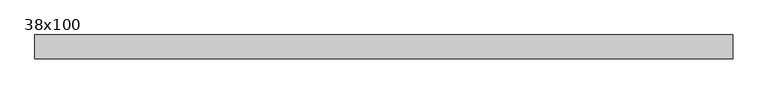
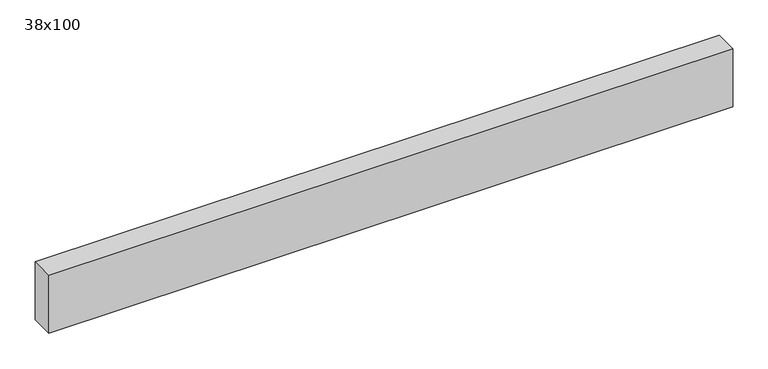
"""IFC4 building model written with IfcOpenShell, lengths in millimetres: beam geometry, Poutre - Bois de construction de dimensions courantes : 38x100."""

import ifcopenshell
import ifcopenshell.guid

model = None  # the IFC model being written
_history = None  # IfcOwnerHistory: only IFC2X3 demands one
_inside = {}  # id of a spatial element -> (the spatial element, [elements in it])
_under = {}  # id of a project, library or spatial element -> (it, [spatial elements below it])
_declared = {}  # id of a project -> (the project, [libraries it declares])
_typed = {}  # id of a type object -> (the type object, [elements of that type])
_made_of = {}  # id of a material, layer set ... -> (it, [elements and type objects made of it])


def new_model(schema):
    """Start an empty IFC model of exactly this schema.

    Asked for "IFC4X3", IfcOpenShell would pick the latest addendum, in which some entities
    have other attributes; the version numbers below select the first issue.
    IFC2X3 requires an IfcOwnerHistory on every rooted entity: one is made here for all.
    """
    global model, _history
    if schema == "IFC4X3":
        model = ifcopenshell.file(schema_version=(4, 3, 0, 0))
    else:
        model = ifcopenshell.file(schema=schema)
    _inside.clear()
    _under.clear()
    _declared.clear()
    _typed.clear()
    _made_of.clear()
    _history = None
    if model.schema == "IFC2X3":
        org = make("IfcOrganization", Name="unknown")
        user = make(
            "IfcPersonAndOrganization",
            ThePerson=make("IfcPerson", FamilyName="unknown"),
            TheOrganization=org,
        )
        app = make(
            "IfcApplication",
            ApplicationDeveloper=org,
            Version="unknown",
            ApplicationFullName="unknown",
            ApplicationIdentifier="unknown",
        )
        _history = make(
            "IfcOwnerHistory",
            OwningUser=user,
            OwningApplication=app,
            ChangeAction="ADDED",
            CreationDate=0,
        )
    return model


def make(cls, **values):
    """One entity of the class cls with the attributes given. An attribute that is None is left unset."""
    return model.create_entity(
        cls, **{name: value for name, value in values.items() if value is not None}
    )


def rooted(cls, **values):
    """An entity with a GlobalId (a new one), such as an element, a storey or a relation."""
    return make(cls, GlobalId=ifcopenshell.guid.new(), OwnerHistory=_history, **values)


def si_unit(unit_type, name, prefix=None):
    """IfcSIUnit, for example si_unit("LENGTHUNIT", "METRE", prefix="MILLI")."""
    return make("IfcSIUnit", UnitType=unit_type, Prefix=prefix, Name=name)


def assignment(units):
    """IfcUnitAssignment: the units of a project."""
    return None if units is None else make("IfcUnitAssignment", Units=units)


def point(xyz):
    """IfcCartesianPoint."""
    return None if xyz is None else make("IfcCartesianPoint", Coordinates=xyz)


def direction(xyz):
    """IfcDirection."""
    return None if xyz is None else make("IfcDirection", DirectionRatios=xyz)


def frame(location, z_axis=None, x_axis=None):
    """IfcAxis2Placement3D, a coordinate frame: its origin and axes. An axis left out is left unset."""
    return make(
        "IfcAxis2Placement3D",
        Location=point(location),
        Axis=direction(z_axis),
        RefDirection=direction(x_axis),
    )


def origin():
    """The frame at (0, 0, 0) with its axes left unset."""
    return frame((0.0, 0.0, 0.0))


def place(relative_to, where):
    """IfcLocalPlacement: puts the frame where relative to a parent placement (None: the world)."""
    return make(
        "IfcLocalPlacement", PlacementRelTo=relative_to, RelativePlacement=where
    )


def context(
    kind, dimensions, precision=None, world=None, true_north=None, identifier=None
):
    """IfcGeometricRepresentationContext, for example the 3D "Model" context."""
    return make(
        "IfcGeometricRepresentationContext",
        ContextIdentifier=identifier,
        ContextType=kind,
        CoordinateSpaceDimension=dimensions,
        Precision=precision,
        WorldCoordinateSystem=world,
        TrueNorth=true_north,
    )


def project(units=None, contexts=None):
    """IfcProject with its units and contexts."""
    return rooted(
        "IfcProject",
        Name="project",
        RepresentationContexts=contexts,
        UnitsInContext=assignment(units),
    )


def spatial(cls, under=None, at=None, **own):
    """A site, building, storey or space (cls), placed at a placement, below another one or the project."""
    s = rooted(cls, ObjectPlacement=at, **own)
    if under is not None:
        _under.setdefault(under.id(), (under, []))[1].append(s)
    return s


def polyline(points):
    """IfcPolyline through the points."""
    return make("IfcPolyline", Points=[point(p) for p in points])


def outline(outer, holes=None, kind="AREA"):
    """IfcArbitraryClosedProfileDef: a profile drawn as a closed curve; with holes, ...WithVoids."""
    if holes is None:
        return make("IfcArbitraryClosedProfileDef", ProfileType=kind, OuterCurve=outer)
    return make(
        "IfcArbitraryProfileDefWithVoids",
        ProfileType=kind,
        OuterCurve=outer,
        InnerCurves=holes,
    )


def extrude(swept, where, along, depth):
    """IfcExtrudedAreaSolid: the profile swept, set in the frame where, extruded along a direction by depth."""
    return make(
        "IfcExtrudedAreaSolid",
        SweptArea=swept,
        Position=where,
        ExtrudedDirection=direction(along),
        Depth=depth,
    )


def shape(context_of_items, identifier, shape_type, items):
    """IfcShapeRepresentation: the items that make up one representation, for example the "Body"."""
    return make(
        "IfcShapeRepresentation",
        ContextOfItems=context_of_items,
        RepresentationIdentifier=identifier,
        RepresentationType=shape_type,
        Items=items,
    )


def source(mapping_origin, context_of_items, identifier, shape_type, items):
    """IfcRepresentationMap: a shape defined once, which mapped items show again and again."""
    return make(
        "IfcRepresentationMap",
        MappingOrigin=mapping_origin,
        MappedRepresentation=shape(context_of_items, identifier, shape_type, items),
    )


def transform(
    local_origin,
    x_axis=None,
    y_axis=None,
    z_axis=None,
    scale=None,
    scale2=None,
    scale3=None,
    uniform=True,
):
    """IfcCartesianTransformationOperator3D, or its non-uniform kind. x_axis, y_axis, z_axis: its Axis1, 2, 3."""
    if uniform:
        return make(
            "IfcCartesianTransformationOperator3D",
            Axis1=direction(x_axis),
            Axis2=direction(y_axis),
            LocalOrigin=point(local_origin),
            Scale=scale,
            Axis3=direction(z_axis),
        )
    return make(
        "IfcCartesianTransformationOperator3DnonUniform",
        Axis1=direction(x_axis),
        Axis2=direction(y_axis),
        LocalOrigin=point(local_origin),
        Scale=scale,
        Axis3=direction(z_axis),
        Scale2=scale2,
        Scale3=scale3,
    )


def mapped(mapping_source, mapping_target):
    """IfcMappedItem: shows the shape of a source again, moved by a transform."""
    return make(
        "IfcMappedItem", MappingSource=mapping_source, MappingTarget=mapping_target
    )


def made_of(thing, what):
    """Note that an element or type object is made of a material, layer set ...; save() writes the relation."""
    if what is not None:
        _made_of.setdefault(what.id(), (what, []))[1].append(thing)
    return thing


def element(
    cls,
    number,
    at=None,
    inside=None,
    cuts=None,
    type_object=None,
    material=None,
    context=None,
    identifier="Body",
    shape_type=None,
    held_by="IfcProductDefinitionShape",
    body=None,
    shapes=None,
    **own,
):
    """One element of the class cls, such as IfcWall. Its Tag is "e" and its number.

    at: its placement. inside: the storey or other place that contains it. cuts: it is an
    opening in that element (IfcRelVoidsElement). A single representation is given by context,
    identifier, shape_type and body (its items); several are given by shapes. held_by: the class
    of the entity that holds the representations. save() writes the other relations.
    """
    e = rooted(cls, Tag="e%d" % number, ObjectPlacement=at, **own)
    if body is not None:
        shapes = [shape(context, identifier, shape_type, body)]
    if shapes is not None:
        e.Representation = make(held_by, Representations=shapes)
    if inside is not None:
        _inside.setdefault(inside.id(), (inside, []))[1].append(e)
    if cuts is not None:
        rooted(
            "IfcRelVoidsElement", RelatingBuildingElement=cuts, RelatedOpeningElement=e
        )
    if type_object is not None:
        _typed.setdefault(type_object.id(), (type_object, []))[1].append(e)
    return made_of(e, material)


def aggregate(whole, parts):
    """IfcRelAggregates: a whole, such as a stair, and the parts it consists of."""
    return rooted("IfcRelAggregates", RelatingObject=whole, RelatedObjects=parts)


def save(model, path):
    """Write the relations noted so far, then the file.

    IfcRelAggregates (storeys below a building ...), IfcRelContainedInSpatialStructure (elements
    in a storey), IfcRelDefinesByType, IfcRelAssociatesMaterial and IfcRelDeclares: one each for
    every whole, place, type object, material and project.
    """
    for whole, parts in _under.values():
        aggregate(whole, parts)
    for where, things in _inside.values():
        rooted(
            "IfcRelContainedInSpatialStructure",
            RelatedElements=things,
            RelatingStructure=where,
        )
    for kind, things in _typed.values():
        rooted("IfcRelDefinesByType", RelatedObjects=things, RelatingType=kind)
    for what, things in _made_of.values():
        rooted("IfcRelAssociatesMaterial", RelatedObjects=things, RelatingMaterial=what)
    for by, libraries in _declared.values():
        rooted("IfcRelDeclares", RelatingContext=by, RelatedDefinitions=libraries)
    model.write(path)


def beam_38x100_179e4b7a(model_context):
    return source(origin(), model_context, "Body", "SweptSolid", [
        extrude(outline(polyline([(477.0, 19.05), (477.0, -19.05), (-637.0, -19.05), (-637.0, 19.05), (477.0, 19.05)])), frame((0.0, 0.0, -50.0), z_axis=(0.0, 0.0, 1.0), x_axis=(1.0, 0.0, 0.0)), (0.0, 0.0, 1.0), 100.0),
    ])


if __name__ == "__main__":
    model = new_model("IFC4")
    model_context = context("Model", 3, world=origin())
    ifc_project = project(units=[si_unit("LENGTHUNIT", "METRE", prefix="MILLI")], contexts=[model_context])
    site = spatial("IfcSite", under=ifc_project)
    building = spatial("IfcBuilding", under=site)
    placement = place(None, origin())
    beam_38x100_shape = beam_38x100_179e4b7a(model_context)
    element("IfcBeam", 1, ObjectType="Poutre - Bois de construction de dimensions courantes : 38x100", at=placement, inside=building, context=model_context, shape_type="MappedRepresentation", body=[
        mapped(beam_38x100_shape, transform((0.0, 0.0, 0.0), x_axis=(1.0, 0.0, 0.0), y_axis=(0.0, 1.0, 0.0), z_axis=(0.0, 0.0, 1.0))),
    ])
    save(model, "model.ifc")
